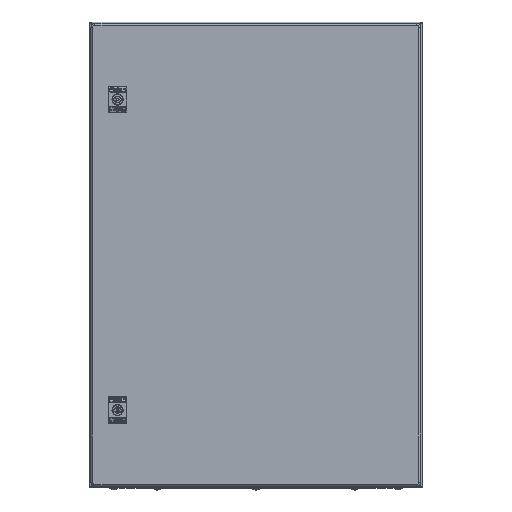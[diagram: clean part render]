
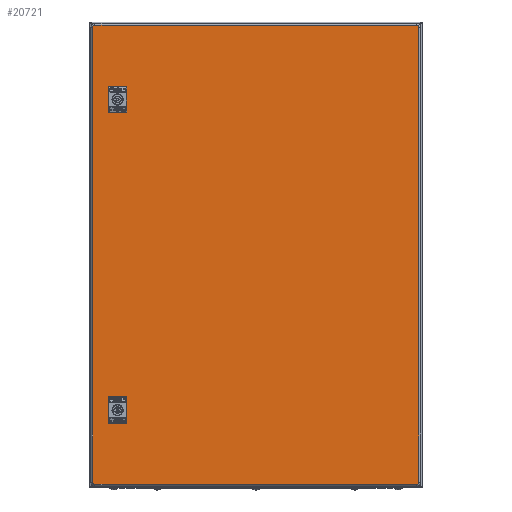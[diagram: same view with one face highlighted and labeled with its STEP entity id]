
A CAD part, top view. The second image highlights one B-rep face of the part: STEP entity #20721.
In plain terms, the highlighted planar face has unit normal (0, 0, 1) as drawn and (0, 1, 0) by its records, which use the part's own axes.
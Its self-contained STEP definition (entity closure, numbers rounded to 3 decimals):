
#19774=DIRECTION('',(0.,0.,1.));
#19775=VECTOR('',#19774,12.009);
#19776=CARTESIAN_POINT('',(-217.9,16.5,-239.504));
#19777=LINE('',#19776,#19775);
#19781=CARTESIAN_POINT('',(-207.8,16.5,-233.5));
#19782=DIRECTION('',(0.,1.,0.));
#19783=DIRECTION('',(-0.86,0.,0.511));
#19784=AXIS2_PLACEMENT_3D('',#19781,#19782,#19783);
#19789=DIRECTION('',(0.,0.,-1.));
#19790=VECTOR('',#19789,12.009);
#19791=CARTESIAN_POINT('',(-197.7,16.5,-227.496));
#19792=LINE('',#19791,#19790);
#19796=CARTESIAN_POINT('',(-207.8,16.5,-233.5));
#19797=DIRECTION('',(0.,1.,0.));
#19798=DIRECTION('',(0.86,0.,-0.511));
#19799=AXIS2_PLACEMENT_3D('',#19796,#19797,#19798);
#19804=DIRECTION('',(0.,0.,-1.));
#19805=VECTOR('',#19804,12.009);
#19806=CARTESIAN_POINT('',(-217.9,16.5,239.504));
#19807=LINE('',#19806,#19805);
#19811=CARTESIAN_POINT('',(-207.8,16.5,233.5));
#19812=DIRECTION('',(0.,-1.,0.));
#19813=DIRECTION('',(0.86,0.,0.511));
#19814=AXIS2_PLACEMENT_3D('',#19811,#19812,#19813);
#19819=DIRECTION('',(0.,0.,1.));
#19820=VECTOR('',#19819,12.009);
#19821=CARTESIAN_POINT('',(-197.7,16.5,227.496));
#19822=LINE('',#19821,#19820);
#19826=CARTESIAN_POINT('',(-207.8,16.5,233.5));
#19827=DIRECTION('',(0.,-1.,0.));
#19828=DIRECTION('',(-0.86,0.,-0.511));
#19829=AXIS2_PLACEMENT_3D('',#19826,#19827,#19828);
#19834=DIRECTION('',(0.,0.,-1.));
#19835=VECTOR('',#19834,683.6);
#19836=CARTESIAN_POINT('',(245.3,16.5,341.8));
#19837=LINE('',#19836,#19835);
#19856=CARTESIAN_POINT('',(241.8,16.5,-341.8));
#19857=DIRECTION('',(0.,1.,0.));
#19858=DIRECTION('',(1.,0.,0.));
#19859=AXIS2_PLACEMENT_3D('',#19856,#19857,#19858);
#19880=DIRECTION('',(-1.,0.,0.));
#19881=VECTOR('',#19880,483.6);
#19882=CARTESIAN_POINT('',(241.8,16.5,-345.3));
#19883=LINE('',#19882,#19881);
#19902=CARTESIAN_POINT('',(-241.8,16.5,-341.8));
#19903=DIRECTION('',(0.,1.,0.));
#19904=DIRECTION('',(0.,0.,-1.));
#19905=AXIS2_PLACEMENT_3D('',#19902,#19903,#19904);
#19926=DIRECTION('',(0.,0.,1.));
#19927=VECTOR('',#19926,683.6);
#19928=CARTESIAN_POINT('',(-245.3,16.5,-341.8));
#19929=LINE('',#19928,#19927);
#19948=CARTESIAN_POINT('',(-241.8,16.5,341.8));
#19949=DIRECTION('',(0.,1.,0.));
#19950=DIRECTION('',(-1.,0.,0.));
#19951=AXIS2_PLACEMENT_3D('',#19948,#19949,#19950);
#19972=DIRECTION('',(1.,0.,0.));
#19973=VECTOR('',#19972,483.6);
#19974=CARTESIAN_POINT('',(-241.8,16.5,345.3));
#19975=LINE('',#19974,#19973);
#19994=CARTESIAN_POINT('',(241.8,16.5,341.8));
#19995=DIRECTION('',(0.,1.,0.));
#19996=DIRECTION('',(0.,0.,1.));
#19997=AXIS2_PLACEMENT_3D('',#19994,#19995,#19996);
#20566=CARTESIAN_POINT('',(245.3,16.5,341.8));
#20567=CARTESIAN_POINT('',(245.3,16.5,-341.8));
#20568=VERTEX_POINT('',#20566);
#20569=VERTEX_POINT('',#20567);
#20574=CARTESIAN_POINT('',(241.8,16.5,-345.3));
#20575=VERTEX_POINT('',#20574);
#20578=CARTESIAN_POINT('',(-241.8,16.5,-345.3));
#20579=VERTEX_POINT('',#20578);
#20582=CARTESIAN_POINT('',(-245.3,16.5,-341.8));
#20583=VERTEX_POINT('',#20582);
#20586=CARTESIAN_POINT('',(-245.3,16.5,341.8));
#20587=VERTEX_POINT('',#20586);
#20590=CARTESIAN_POINT('',(-241.8,16.5,345.3));
#20591=VERTEX_POINT('',#20590);
#20594=CARTESIAN_POINT('',(241.8,16.5,345.3));
#20595=VERTEX_POINT('',#20594);
#20646=CARTESIAN_POINT('',(-217.9,16.5,-239.504));
#20647=CARTESIAN_POINT('',(-217.9,16.5,-227.496));
#20648=VERTEX_POINT('',#20646);
#20649=VERTEX_POINT('',#20647);
#20650=CARTESIAN_POINT('',(-197.7,16.5,-227.496));
#20651=VERTEX_POINT('',#20650);
#20652=CARTESIAN_POINT('',(-197.7,16.5,-239.504));
#20653=VERTEX_POINT('',#20652);
#20662=CARTESIAN_POINT('',(-217.9,16.5,239.504));
#20663=CARTESIAN_POINT('',(-217.9,16.5,227.496));
#20664=VERTEX_POINT('',#20662);
#20665=VERTEX_POINT('',#20663);
#20666=CARTESIAN_POINT('',(-197.7,16.5,227.496));
#20667=VERTEX_POINT('',#20666);
#20668=CARTESIAN_POINT('',(-197.7,16.5,239.504));
#20669=VERTEX_POINT('',#20668);
#20678=CARTESIAN_POINT('',(0.,16.5,0.));
#20679=DIRECTION('',(0.,1.,0.));
#20680=DIRECTION('',(1.,0.,0.));
#20681=AXIS2_PLACEMENT_3D('',#20678,#20679,#20680);
#20682=PLANE('',#20681);
#20684=ORIENTED_EDGE('',*,*,#20683,.F.);
#20686=ORIENTED_EDGE('',*,*,#20685,.F.);
#20688=ORIENTED_EDGE('',*,*,#20687,.F.);
#20690=ORIENTED_EDGE('',*,*,#20689,.F.);
#20692=ORIENTED_EDGE('',*,*,#20691,.F.);
#20694=ORIENTED_EDGE('',*,*,#20693,.F.);
#20696=ORIENTED_EDGE('',*,*,#20695,.F.);
#20698=ORIENTED_EDGE('',*,*,#20697,.F.);
#20699=EDGE_LOOP('',(#20684,#20686,#20688,#20690,#20692,#20694,#20696,#20698));
#20700=FACE_OUTER_BOUND('',#20699,.F.);
#20702=ORIENTED_EDGE('',*,*,#20701,.T.);
#20704=ORIENTED_EDGE('',*,*,#20703,.T.);
#20706=ORIENTED_EDGE('',*,*,#20705,.T.);
#20708=ORIENTED_EDGE('',*,*,#20707,.T.);
#20709=EDGE_LOOP('',(#20702,#20704,#20706,#20708));
#20710=FACE_BOUND('',#20709,.F.);
#20712=ORIENTED_EDGE('',*,*,#20711,.F.);
#20714=ORIENTED_EDGE('',*,*,#20713,.F.);
#20716=ORIENTED_EDGE('',*,*,#20715,.F.);
#20718=ORIENTED_EDGE('',*,*,#20717,.F.);
#20719=EDGE_LOOP('',(#20712,#20714,#20716,#20718));
#20720=FACE_BOUND('',#20719,.F.);
#19785=CIRCLE('',#19784,11.75);
#19800=CIRCLE('',#19799,11.75);
#19815=CIRCLE('',#19814,11.75);
#19830=CIRCLE('',#19829,11.75);
#19860=CIRCLE('',#19859,3.5);
#19906=CIRCLE('',#19905,3.5);
#19952=CIRCLE('',#19951,3.5);
#19998=CIRCLE('',#19997,3.5);
#20683=EDGE_CURVE('',#20568,#20569,#19837,.T.);
#20685=EDGE_CURVE('',#20595,#20568,#19998,.T.);
#20687=EDGE_CURVE('',#20591,#20595,#19975,.T.);
#20689=EDGE_CURVE('',#20587,#20591,#19952,.T.);
#20691=EDGE_CURVE('',#20583,#20587,#19929,.T.);
#20693=EDGE_CURVE('',#20579,#20583,#19906,.T.);
#20695=EDGE_CURVE('',#20575,#20579,#19883,.T.);
#20697=EDGE_CURVE('',#20569,#20575,#19860,.T.);
#20701=EDGE_CURVE('',#20648,#20649,#19777,.T.);
#20703=EDGE_CURVE('',#20649,#20651,#19785,.T.);
#20705=EDGE_CURVE('',#20651,#20653,#19792,.T.);
#20707=EDGE_CURVE('',#20653,#20648,#19800,.T.);
#20711=EDGE_CURVE('',#20664,#20665,#19807,.T.);
#20713=EDGE_CURVE('',#20669,#20664,#19815,.T.);
#20715=EDGE_CURVE('',#20667,#20669,#19822,.T.);
#20717=EDGE_CURVE('',#20665,#20667,#19830,.T.);
#20721=ADVANCED_FACE('',(#20700,#20710,#20720),#20682,.T.);
